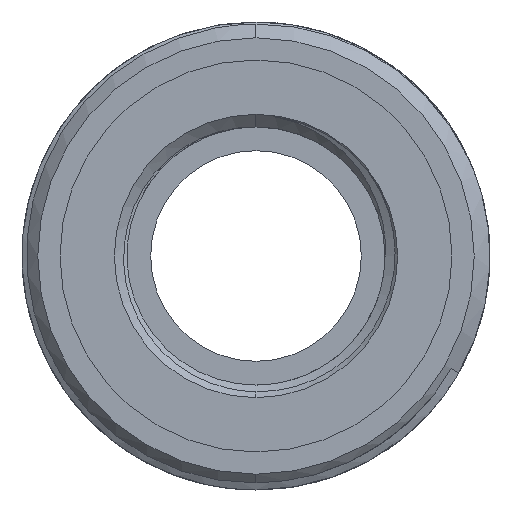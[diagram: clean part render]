
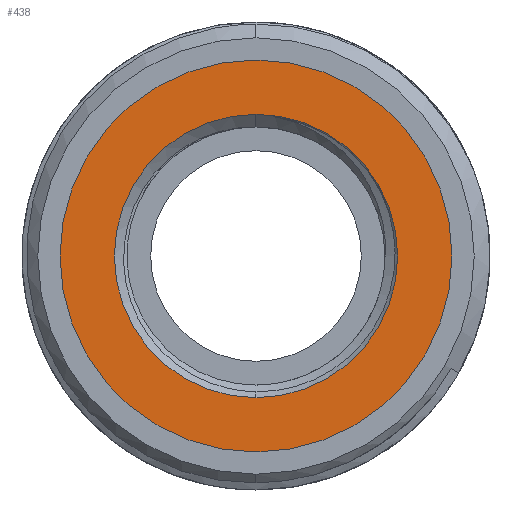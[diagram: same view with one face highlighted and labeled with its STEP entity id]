
A CAD part, left-side view. The second image highlights one B-rep face of the part: STEP entity #438.
In plain terms, the highlighted planar face has unit normal (-1, 0, 0).
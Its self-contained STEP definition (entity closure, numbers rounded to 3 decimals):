
#121 = VERTEX_POINT ( 'NONE', #4468 ) ;
#438 = ADVANCED_FACE ( 'NONE', ( #5323, #3018 ), #1843, .F. ) ;
#694 = AXIS2_PLACEMENT_3D ( 'NONE', #3411, #722, #5136 ) ;
#722 = DIRECTION ( 'NONE',  ( -1., 0., 0. ) ) ;
#769 = DIRECTION ( 'NONE',  ( 1., 0., 0. ) ) ;
#828 = ORIENTED_EDGE ( 'NONE', *, *, #3401, .T. ) ;
#939 = CIRCLE ( 'NONE', #694, 13.45 ) ;
#1270 = CIRCLE ( 'NONE', #5324, 13.45 ) ;
#1317 = ORIENTED_EDGE ( 'NONE', *, *, #3856, .T. ) ;
#1567 = ORIENTED_EDGE ( 'NONE', *, *, #6150, .F. ) ;
#1578 = CARTESIAN_POINT ( 'NONE',  ( -20.456, 0., -18.601 ) ) ;
#1843 = PLANE ( 'NONE',  #6215 ) ;
#1995 = CARTESIAN_POINT ( 'NONE',  ( -20.456, 0., 0. ) ) ;
#2391 = AXIS2_PLACEMENT_3D ( 'NONE', #1995, #3208, #2648 ) ;
#2557 = EDGE_LOOP ( 'NONE', ( #1567, #5540 ) ) ;
#2599 = DIRECTION ( 'NONE',  ( -1., 0., 0. ) ) ;
#2648 = DIRECTION ( 'NONE',  ( 0., 0., 1. ) ) ;
#2965 = CARTESIAN_POINT ( 'NONE',  ( -20.456, 0., 0. ) ) ;
#2977 = DIRECTION ( 'NONE',  ( 0., 0., -1. ) ) ;
#3003 = DIRECTION ( 'NONE',  ( 0., 0., 1. ) ) ;
#3018 = FACE_OUTER_BOUND ( 'NONE', #6734, .T. ) ;
#3208 = DIRECTION ( 'NONE',  ( -1., 0., 0. ) ) ;
#3401 = EDGE_CURVE ( 'NONE', #5345, #3564, #6660, .T. ) ;
#3411 = CARTESIAN_POINT ( 'NONE',  ( -20.456, 0., 0. ) ) ;
#3481 = DIRECTION ( 'NONE',  ( 0., 0., 1. ) ) ;
#3564 = VERTEX_POINT ( 'NONE', #1578 ) ;
#3856 = EDGE_CURVE ( 'NONE', #3564, #5345, #6780, .T. ) ;
#4009 = CARTESIAN_POINT ( 'NONE',  ( -20.456, 0., 0. ) ) ;
#4050 = CARTESIAN_POINT ( 'NONE',  ( -20.456, 18.601, 0. ) ) ;
#4468 = CARTESIAN_POINT ( 'NONE',  ( -20.456, 0., 13.45 ) ) ;
#4474 = DIRECTION ( 'NONE',  ( -1., 0., 0. ) ) ;
#4581 = AXIS2_PLACEMENT_3D ( 'NONE', #2965, #2599, #3003 ) ;
#4847 = VERTEX_POINT ( 'NONE', #6551 ) ;
#5136 = DIRECTION ( 'NONE',  ( 0., 0., 1. ) ) ;
#5323 = FACE_BOUND ( 'NONE', #2557, .T. ) ;
#5324 = AXIS2_PLACEMENT_3D ( 'NONE', #4009, #4474, #3481 ) ;
#5345 = VERTEX_POINT ( 'NONE', #6185 ) ;
#5540 = ORIENTED_EDGE ( 'NONE', *, *, #6490, .F. ) ;
#6150 = EDGE_CURVE ( 'NONE', #121, #4847, #1270, .T. ) ;
#6185 = CARTESIAN_POINT ( 'NONE',  ( -20.456, 0., 18.601 ) ) ;
#6215 = AXIS2_PLACEMENT_3D ( 'NONE', #4050, #769, #2977 ) ;
#6490 = EDGE_CURVE ( 'NONE', #4847, #121, #939, .T. ) ;
#6551 = CARTESIAN_POINT ( 'NONE',  ( -20.456, 0., -13.45 ) ) ;
#6660 = CIRCLE ( 'NONE', #2391, 18.601 ) ;
#6734 = EDGE_LOOP ( 'NONE', ( #828, #1317 ) ) ;
#6780 = CIRCLE ( 'NONE', #4581, 18.601 ) ;
